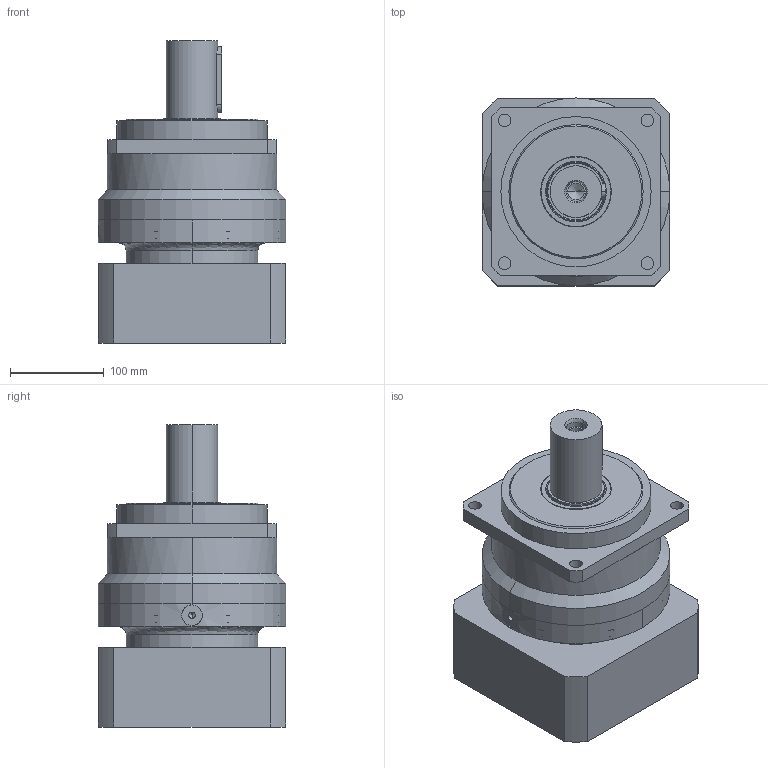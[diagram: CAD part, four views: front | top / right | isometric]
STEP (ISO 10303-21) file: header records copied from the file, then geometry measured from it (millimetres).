
FILE_DESCRIPTION (( 'STEP AP203' ), '1' );
FILE_NAME ('PLM180-L1-42-180-215.STEP', '2026-10-08T01:33:48', ( 'Windows User' ), ( 'P R C' ), 'SwSTEP 2.0', 'SolidWorks 2016', '' );
FILE_SCHEMA (( 'CONFIG_CONTROL_DESIGN' ));
Length unit declared in the file: millimetre
Products named in the file (7): PLM180 奻裔啣_D1-55 D2-160 D5-215 D6-13.5 L1-82 L2-20 L3-15 L4-105 A1-179 S1-6 S2-70 S3-10 S4-42 B-16 H-59 C-M20 梓袧; PLM180 下盖板-非标 内孔42+B12_D9-200 D3-35 B-10x8 标准; 囀鞠褒蹟佪-M10x35; 邧埴瑩 16x10x70; PLM180 一级连接板 200匡 180x10 215xM12 85L_D4-114.3 D7-200 D8-M12 A2-180 L5-10 L6-83(45+38) R-117 标准; TC60-75-9_TC-34.9-55-7; PLM180-L1-42-180-215
Assembly tree (6 placements, depth 2):
  PLM180-L1-42-180-215
    PLM180 奻裔啣_D1-55 D2-160 D5-215 D6-13.5 L1-82 L2-20 L3-15 L4-105 A1-179 S1-6 S2-70 S3-10 S4-42 B-16 H-59 C-M20 梓袧
    PLM180 下盖板-非标 内孔42+B12_D9-200 D3-35 B-10x8 标准
    囀鞠褒蹟佪-M10x35
    邧埴瑩 16x10x70
    PLM180 一级连接板 200匡 180x10 215xM12 85L_D4-114.3 D7-200 D8-M12 A2-180 L5-10 L6-83(45+38) R-117 标准
    TC60-75-9_TC-34.9-55-7
Bounding box: 200 x 200 x 321.5 mm (x, y, z)
Volume: 6536684.4 mm3; surface area: 488655.5 mm2
Topology: 6 solids, 6 shells, 1028 faces, 2646 edges, 1721 vertices
Faces by surface type: plane 595, cylinder 197, bspline 174, cone 62
Entity records: 39690 total; most frequent: CARTESIAN_POINT 14801, ORIENTED_EDGE 5204, DIRECTION 4473, EDGE_CURVE 2602, LINE 1791, VECTOR 1791, VERTEX_POINT 1721, AXIS2_PLACEMENT_3D 1341
